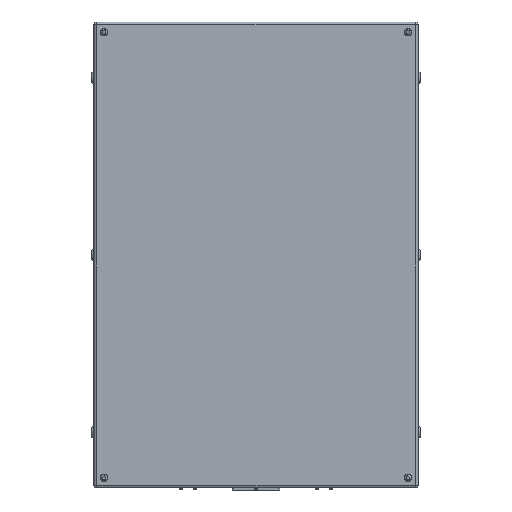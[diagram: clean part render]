
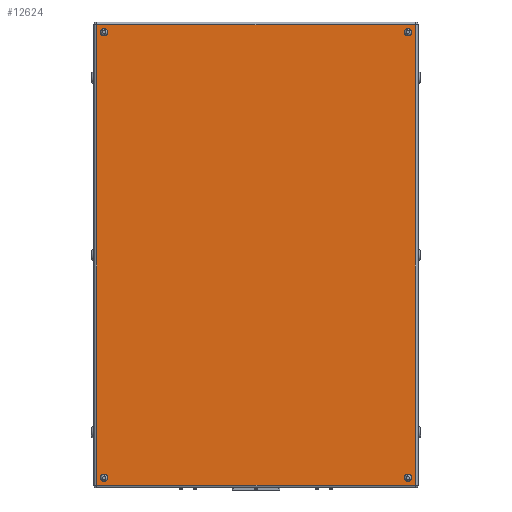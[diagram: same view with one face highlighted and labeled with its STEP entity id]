
A CAD part, front view. The second image highlights one B-rep face of the part: STEP entity #12624.
In plain terms, the highlighted planar face has unit normal (0, -1, 0).
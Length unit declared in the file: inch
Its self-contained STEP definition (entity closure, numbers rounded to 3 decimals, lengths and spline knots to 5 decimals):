
#1 = DIRECTION ( 'NONE',  ( 0., 0., 1. ) ) ;
#105 = CIRCLE ( 'NONE', #1304, 0.37402 ) ;
#407 = CARTESIAN_POINT ( 'NONE',  ( 15., -10., -22. ) ) ;
#437 = CARTESIAN_POINT ( 'NONE',  ( -15.734, -10., -22.734 ) ) ;
#560 = CARTESIAN_POINT ( 'NONE',  ( 15.734, -10., -22.734 ) ) ;
#762 = CARTESIAN_POINT ( 'NONE',  ( -15., -10., -22.37402 ) ) ;
#1040 = DIRECTION ( 'NONE',  ( 0., 0., -1. ) ) ;
#1144 = EDGE_CURVE ( 'NONE', #1279, #12571, #10937, .T. ) ;
#1209 = CARTESIAN_POINT ( 'NONE',  ( -15., -10., 21.62598 ) ) ;
#1279 = VERTEX_POINT ( 'NONE', #9231 ) ;
#1294 = DIRECTION ( 'NONE',  ( 0., 0., 1. ) ) ;
#1304 = AXIS2_PLACEMENT_3D ( 'NONE', #7595, #14411, #1040 ) ;
#1317 = CIRCLE ( 'NONE', #12281, 0.37402 ) ;
#1505 = CARTESIAN_POINT ( 'NONE',  ( 15., -10., 21.62598 ) ) ;
#1737 = CARTESIAN_POINT ( 'NONE',  ( -15., -10., 22.37402 ) ) ;
#1749 = EDGE_CURVE ( 'NONE', #4826, #11184, #5662, .T. ) ;
#1954 = DIRECTION ( 'NONE',  ( 0., -1., 0. ) ) ;
#2025 = CIRCLE ( 'NONE', #3444, 0.37402 ) ;
#2146 = EDGE_CURVE ( 'NONE', #12571, #1279, #1317, .T. ) ;
#2347 = CARTESIAN_POINT ( 'NONE',  ( -15.734, -10., -22.734 ) ) ;
#2472 = ORIENTED_EDGE ( 'NONE', *, *, #11120, .F. ) ;
#2508 = VERTEX_POINT ( 'NONE', #762 ) ;
#2512 = CARTESIAN_POINT ( 'NONE',  ( 15., -10., 22.37402 ) ) ;
#2608 = CARTESIAN_POINT ( 'NONE',  ( -15., -10., 22. ) ) ;
#2697 = FACE_BOUND ( 'NONE', #11790, .T. ) ;
#2722 = AXIS2_PLACEMENT_3D ( 'NONE', #2608, #10676, #9672 ) ;
#2751 = EDGE_LOOP ( 'NONE', ( #11513, #2898 ) ) ;
#2766 = EDGE_CURVE ( 'NONE', #2508, #4206, #105, .T. ) ;
#2898 = ORIENTED_EDGE ( 'NONE', *, *, #1144, .F. ) ;
#2984 = CARTESIAN_POINT ( 'NONE',  ( 15., -10., -21.62598 ) ) ;
#3101 = DIRECTION ( 'NONE',  ( 0., -1., 0. ) ) ;
#3347 = DIRECTION ( 'NONE',  ( 1., 0., 0. ) ) ;
#3443 = LINE ( 'NONE', #2347, #14633 ) ;
#3444 = AXIS2_PLACEMENT_3D ( 'NONE', #11535, #8144, #1294 ) ;
#3550 = ORIENTED_EDGE ( 'NONE', *, *, #4979, .T. ) ;
#3636 = VERTEX_POINT ( 'NONE', #437 ) ;
#3792 = FACE_BOUND ( 'NONE', #2751, .T. ) ;
#3940 = CIRCLE ( 'NONE', #7319, 0.37402 ) ;
#4206 = VERTEX_POINT ( 'NONE', #10001 ) ;
#4408 = EDGE_CURVE ( 'NONE', #3636, #4826, #13822, .T. ) ;
#4547 = EDGE_CURVE ( 'NONE', #7238, #10519, #10596, .T. ) ;
#4816 = ORIENTED_EDGE ( 'NONE', *, *, #4408, .T. ) ;
#4826 = VERTEX_POINT ( 'NONE', #560 ) ;
#4933 = ORIENTED_EDGE ( 'NONE', *, *, #2766, .F. ) ;
#4979 = EDGE_CURVE ( 'NONE', #11184, #5241, #10318, .T. ) ;
#5241 = VERTEX_POINT ( 'NONE', #11069 ) ;
#5662 = LINE ( 'NONE', #11511, #5712 ) ;
#5712 = VECTOR ( 'NONE', #1, 39.37008 ) ;
#5874 = ORIENTED_EDGE ( 'NONE', *, *, #1749, .T. ) ;
#6095 = VECTOR ( 'NONE', #3347, 39.37008 ) ;
#6268 = EDGE_LOOP ( 'NONE', ( #10767, #6887 ) ) ;
#6564 = VECTOR ( 'NONE', #11533, 39.37008 ) ;
#6887 = ORIENTED_EDGE ( 'NONE', *, *, #8286, .F. ) ;
#7238 = VERTEX_POINT ( 'NONE', #1737 ) ;
#7258 = FACE_BOUND ( 'NONE', #9434, .T. ) ;
#7319 = AXIS2_PLACEMENT_3D ( 'NONE', #13750, #13974, #10599 ) ;
#7338 = EDGE_CURVE ( 'NONE', #9684, #13229, #13984, .T. ) ;
#7361 = DIRECTION ( 'NONE',  ( 0., -1., 0. ) ) ;
#7591 = DIRECTION ( 'NONE',  ( 0., 0., 1. ) ) ;
#7595 = CARTESIAN_POINT ( 'NONE',  ( -15., -10., -22. ) ) ;
#7731 = DIRECTION ( 'NONE',  ( 0., 0., -1. ) ) ;
#7933 = DIRECTION ( 'NONE',  ( 0., -1., 0. ) ) ;
#8060 = EDGE_CURVE ( 'NONE', #4206, #2508, #12108, .T. ) ;
#8144 = DIRECTION ( 'NONE',  ( 0., -1., 0. ) ) ;
#8286 = EDGE_CURVE ( 'NONE', #13229, #9684, #2025, .T. ) ;
#8924 = CARTESIAN_POINT ( 'NONE',  ( -15., -10., -22. ) ) ;
#9231 = CARTESIAN_POINT ( 'NONE',  ( 15., -10., -22.37402 ) ) ;
#9341 = CARTESIAN_POINT ( 'NONE',  ( -15.734, -10., 22.734 ) ) ;
#9434 = EDGE_LOOP ( 'NONE', ( #14042, #4933 ) ) ;
#9652 = AXIS2_PLACEMENT_3D ( 'NONE', #11465, #7933, #13763 ) ;
#9672 = DIRECTION ( 'NONE',  ( 0., 0., -1. ) ) ;
#9684 = VERTEX_POINT ( 'NONE', #2512 ) ;
#10001 = CARTESIAN_POINT ( 'NONE',  ( -15., -10., -21.62598 ) ) ;
#10318 = LINE ( 'NONE', #9341, #6564 ) ;
#10452 = CARTESIAN_POINT ( 'NONE',  ( 15.734, -10., -22.734 ) ) ;
#10519 = VERTEX_POINT ( 'NONE', #1209 ) ;
#10596 = CIRCLE ( 'NONE', #2722, 0.37402 ) ;
#10599 = DIRECTION ( 'NONE',  ( 0., 0., -1. ) ) ;
#10676 = DIRECTION ( 'NONE',  ( 0., -1., 0. ) ) ;
#10718 = DIRECTION ( 'NONE',  ( 0., 0., 1. ) ) ;
#10767 = ORIENTED_EDGE ( 'NONE', *, *, #7338, .F. ) ;
#10937 = CIRCLE ( 'NONE', #14290, 0.37402 ) ;
#10997 = DIRECTION ( 'NONE',  ( 0., 0., -1. ) ) ;
#11069 = CARTESIAN_POINT ( 'NONE',  ( -15.734, -10., 22.734 ) ) ;
#11120 = EDGE_CURVE ( 'NONE', #10519, #7238, #3940, .T. ) ;
#11184 = VERTEX_POINT ( 'NONE', #13826 ) ;
#11465 = CARTESIAN_POINT ( 'NONE',  ( 15., -10., 22. ) ) ;
#11511 = CARTESIAN_POINT ( 'NONE',  ( 15.734, -10., 22.734 ) ) ;
#11513 = ORIENTED_EDGE ( 'NONE', *, *, #2146, .F. ) ;
#11533 = DIRECTION ( 'NONE',  ( -1., 0., 0. ) ) ;
#11535 = CARTESIAN_POINT ( 'NONE',  ( 15., -10., 22. ) ) ;
#11790 = EDGE_LOOP ( 'NONE', ( #14128, #2472 ) ) ;
#11821 = FACE_OUTER_BOUND ( 'NONE', #12716, .T. ) ;
#12108 = CIRCLE ( 'NONE', #14022, 0.37402 ) ;
#12281 = AXIS2_PLACEMENT_3D ( 'NONE', #407, #7361, #10718 ) ;
#12474 = CARTESIAN_POINT ( 'NONE',  ( 0., -10., 0. ) ) ;
#12571 = VERTEX_POINT ( 'NONE', #2984 ) ;
#12624 = ADVANCED_FACE ( 'NONE', ( #14072, #3792, #2697, #7258, #11821 ), #14769, .T. ) ;
#12716 = EDGE_LOOP ( 'NONE', ( #5874, #3550, #12966, #4816 ) ) ;
#12966 = ORIENTED_EDGE ( 'NONE', *, *, #14619, .T. ) ;
#13019 = DIRECTION ( 'NONE',  ( 0., 0., -1. ) ) ;
#13073 = AXIS2_PLACEMENT_3D ( 'NONE', #12474, #1954, #10997 ) ;
#13229 = VERTEX_POINT ( 'NONE', #1505 ) ;
#13416 = DIRECTION ( 'NONE',  ( 0., -1., 0. ) ) ;
#13499 = CARTESIAN_POINT ( 'NONE',  ( 15., -10., -22. ) ) ;
#13750 = CARTESIAN_POINT ( 'NONE',  ( -15., -10., 22. ) ) ;
#13763 = DIRECTION ( 'NONE',  ( 0., 0., 1. ) ) ;
#13822 = LINE ( 'NONE', #10452, #6095 ) ;
#13826 = CARTESIAN_POINT ( 'NONE',  ( 15.734, -10., 22.734 ) ) ;
#13974 = DIRECTION ( 'NONE',  ( 0., -1., 0. ) ) ;
#13984 = CIRCLE ( 'NONE', #9652, 0.37402 ) ;
#14022 = AXIS2_PLACEMENT_3D ( 'NONE', #8924, #13416, #7731 ) ;
#14042 = ORIENTED_EDGE ( 'NONE', *, *, #8060, .F. ) ;
#14072 = FACE_BOUND ( 'NONE', #6268, .T. ) ;
#14128 = ORIENTED_EDGE ( 'NONE', *, *, #4547, .F. ) ;
#14290 = AXIS2_PLACEMENT_3D ( 'NONE', #13499, #3101, #7591 ) ;
#14411 = DIRECTION ( 'NONE',  ( 0., -1., 0. ) ) ;
#14619 = EDGE_CURVE ( 'NONE', #5241, #3636, #3443, .T. ) ;
#14633 = VECTOR ( 'NONE', #13019, 39.37008 ) ;
#14769 = PLANE ( 'NONE',  #13073 ) ;
